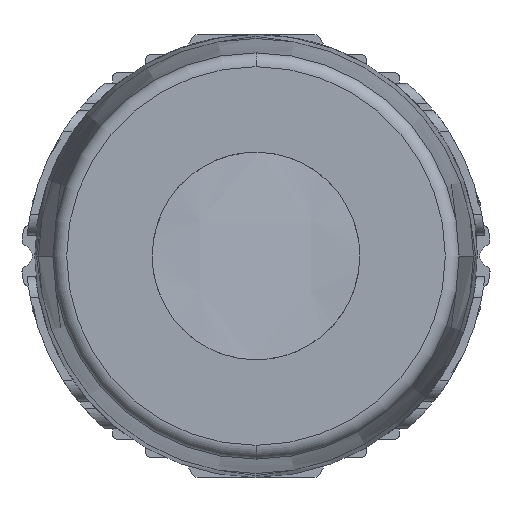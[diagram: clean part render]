
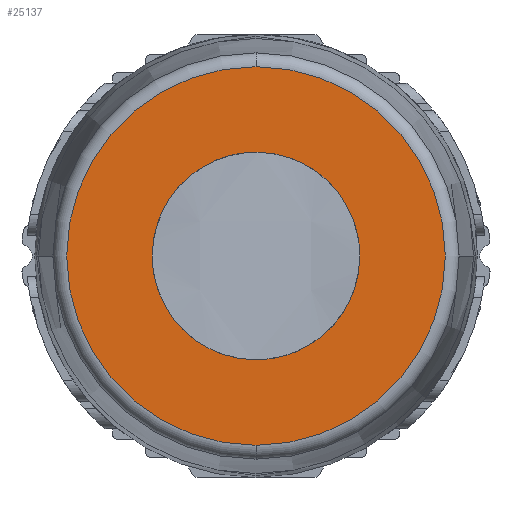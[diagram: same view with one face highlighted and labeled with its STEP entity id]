
A CAD part, front view. The second image highlights one B-rep face of the part: STEP entity #25137.
In plain terms, the highlighted planar face has unit normal (0, -1, 0).
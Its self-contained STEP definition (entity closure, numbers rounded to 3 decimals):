
#10725=CARTESIAN_POINT('',(0.,-51.85,0.));
#10726=DIRECTION('',(0.,-1.,0.));
#10727=DIRECTION('',(0.,0.,1.));
#10728=AXIS2_PLACEMENT_3D('',#10725,#10726,#10727);
#10733=CARTESIAN_POINT('',(0.,-51.85,0.));
#10734=DIRECTION('',(0.,-1.,0.));
#10735=DIRECTION('',(0.,0.,-1.));
#10736=AXIS2_PLACEMENT_3D('',#10733,#10734,#10735);
#10741=CARTESIAN_POINT('',(0.,-51.85,0.));
#10742=DIRECTION('',(0.,-1.,0.));
#10743=DIRECTION('',(-1.,0.,0.));
#10744=AXIS2_PLACEMENT_3D('',#10741,#10742,#10743);
#10749=CARTESIAN_POINT('',(0.,-51.85,0.));
#10750=DIRECTION('',(0.,-1.,0.));
#10751=DIRECTION('',(1.,0.,0.));
#10752=AXIS2_PLACEMENT_3D('',#10749,#10750,#10751);
#16033=CARTESIAN_POINT('',(0.,-51.85,6.844));
#16035=VERTEX_POINT('',#16033);
#16147=CARTESIAN_POINT('',(0.,-51.85,-6.844));
#16148=VERTEX_POINT('',#16147);
#16255=CARTESIAN_POINT('',(-3.75,-51.85,0.));
#16256=CARTESIAN_POINT('',(3.75,-51.85,0.));
#16257=VERTEX_POINT('',#16255);
#16258=VERTEX_POINT('',#16256);
#25122=CARTESIAN_POINT('',(0.,-51.85,0.));
#25123=DIRECTION('',(0.,-1.,0.));
#25124=DIRECTION('',(0.,0.,1.));
#25125=AXIS2_PLACEMENT_3D('',#25122,#25123,#25124);
#25126=PLANE('',#25125);
#25127=ORIENTED_EDGE('',*,*,#25066,.F.);
#25128=ORIENTED_EDGE('',*,*,#25107,.F.);
#25129=EDGE_LOOP('',(#25127,#25128));
#25130=FACE_OUTER_BOUND('',#25129,.F.);
#25132=ORIENTED_EDGE('',*,*,#25131,.T.);
#25134=ORIENTED_EDGE('',*,*,#25133,.T.);
#25135=EDGE_LOOP('',(#25132,#25134));
#25136=FACE_BOUND('',#25135,.F.);
#25137=ADVANCED_FACE('',(#25130,#25136),#25126,.T.);
#10729=CIRCLE('',#10728,6.844);
#10737=CIRCLE('',#10736,6.844);
#10745=CIRCLE('',#10744,3.75);
#10753=CIRCLE('',#10752,3.75);
#25066=EDGE_CURVE('',#16035,#16148,#10729,.T.);
#25107=EDGE_CURVE('',#16148,#16035,#10737,.T.);
#25131=EDGE_CURVE('',#16257,#16258,#10745,.T.);
#25133=EDGE_CURVE('',#16258,#16257,#10753,.T.);
